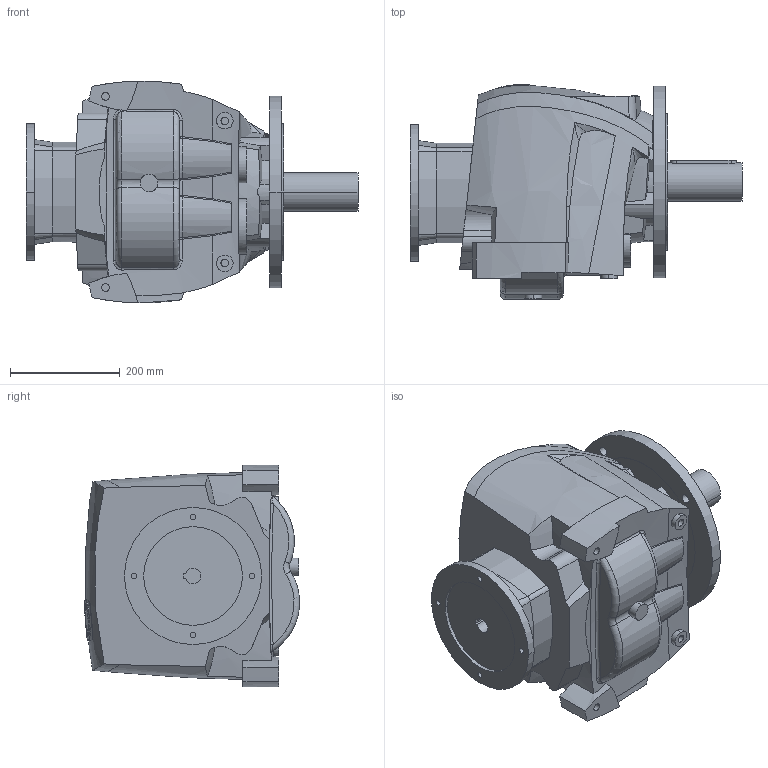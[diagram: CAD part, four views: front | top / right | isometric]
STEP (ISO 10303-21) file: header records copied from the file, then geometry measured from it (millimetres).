
FILE_DESCRIPTION((''),'2;1');
FILE_NAME('R60_350_PAM100112_D2','2013-12-23T',('Luca'),(''),'PRO/ENGINEER BY PARAMETRIC TECHNOLOGY CORPORATION, 2008230','PRO/ENGINEER BY PARAMETRIC TECHNOLOGY CORPORATION, 2008230','');
FILE_SCHEMA(('CONFIG_CONTROL_DESIGN'));
Length unit declared in the file: millimetre
Products named in the file (1): R60_350_PAM100112_D2
Bounding box: 605.5 x 392.1 x 404.24 mm (x, y, z)
Volume: 41426309.6 mm3; surface area: 1009929.8 mm2
Topology: 1 solids, 7 shells, 455 faces, 1189 edges, 785 vertices
Faces by surface type: plane 170, cylinder 155, bspline 96, cone 15, torus 14, sphere 4, extrusion 1
Entity records: 19412 total; most frequent: CARTESIAN_POINT 9015, ORIENTED_EDGE 2374, DIRECTION 1775, EDGE_CURVE 1187, VERTEX_POINT 785, AXIS2_PLACEMENT_3D 648, EDGE_LOOP 510, VECTOR 479
